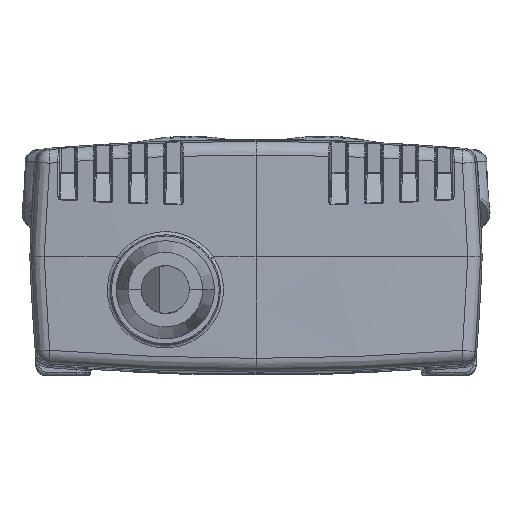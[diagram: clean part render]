
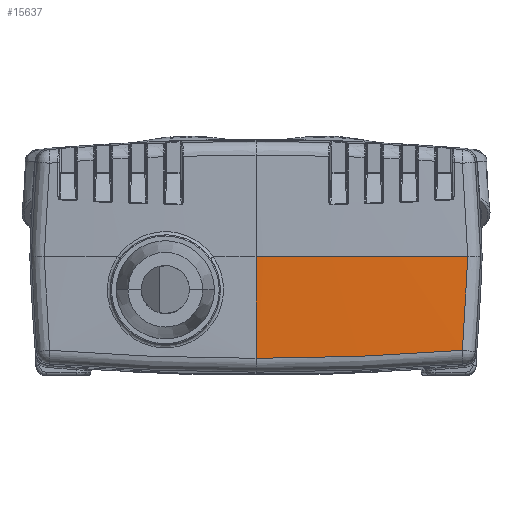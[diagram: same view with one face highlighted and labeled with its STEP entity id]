
A CAD part, top view. The second image highlights one B-rep face of the part: STEP entity #15637.
In plain terms, the highlighted free-form (B-spline) face has degree [3, 3] with [7, 5] control points.
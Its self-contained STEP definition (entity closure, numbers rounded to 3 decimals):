
#19 = CARTESIAN_POINT ( 'NONE',  ( -0.305, 0., 41.85 ) ) ;
#2830 = B_SPLINE_CURVE_WITH_KNOTS ( 'NONE', 3,
 ( #8376, #35740, #30453, #68828 ),
 .UNSPECIFIED., .F., .F.,
 ( 4, 4 ),
 ( 0., 0.009 ),
 .UNSPECIFIED. ) ;
#4364 = CARTESIAN_POINT ( 'NONE',  ( 19.348, -8.774, 41.238 ) ) ;
#5341 = CARTESIAN_POINT ( 'NONE',  ( 7.48, -1.616, 41.85 ) ) ;
#5574 = CARTESIAN_POINT ( 'NONE',  ( -1.812, -8.951, 41.85 ) ) ;
#6047 = CARTESIAN_POINT ( 'NONE',  ( -2.305, 0., 41.85 ) ) ;
#8376 = CARTESIAN_POINT ( 'NONE',  ( 19.856, 0., 41.238 ) ) ;
#8816 = EDGE_CURVE ( 'NONE', #61826, #51085, #31398, .T. ) ;
#10594 = CARTESIAN_POINT ( 'NONE',  ( 20.97, -5.286, 41.149 ) ) ;
#10830 = CARTESIAN_POINT ( 'NONE',  ( 0., -11., 41.85 ) ) ;
#11062 = CARTESIAN_POINT ( 'NONE',  ( -1.361, -1.616, 41.85 ) ) ;
#11852 =( BOUNDED_SURFACE ( )  B_SPLINE_SURFACE ( 3, 3, ( 
 ( #21371, #43524, #10594, #49071, #16117 ),
 ( #54560, #21612, #60085, #27108, #65613 ),
 ( #32711, #71073, #38216, #5341, #43760 ),
 ( #10830, #49313, #16346, #54785, #21842 ),
 ( #60326, #27333, #65843, #32942, #19 ),
 ( #38438, #5574, #43994, #11062, #49539 ),
 ( #16593, #55020, #22065, #60561, #27583 ) ),
 .UNSPECIFIED., .F., .F., .F. ) 
 B_SPLINE_SURFACE_WITH_KNOTS ( ( 4, 3, 4 ),
 ( 4, 1, 4 ),
 ( 0., 0.43, 0.493 ),
 ( 0., 0.56, 1. ),
 .UNSPECIFIED. ) 
 GEOMETRIC_REPRESENTATION_ITEM ( )  RATIONAL_B_SPLINE_SURFACE ( (
 ( 1., 1., 1., 1., 1.),
 ( 1., 1., 1., 1., 1.),
 ( 1., 1., 1., 1., 1.),
 ( 1., 1., 1., 1., 1.),
 ( 1., 1., 1., 1., 1.),
 ( 1., 1., 1., 1., 1.),
 ( 1., 1., 1., 1., 1.) ) ) 
 REPRESENTATION_ITEM ( '' )  SURFACE ( )  );
#11947 = CARTESIAN_POINT ( 'NONE',  ( 0., -1.838, 41.85 ) ) ;
#15637 = ADVANCED_FACE ( 'NONE', ( #65109 ), #11852, .F. ) ;
#16117 = CARTESIAN_POINT ( 'NONE',  ( 21.2, 0., 41.149 ) ) ;
#16346 = CARTESIAN_POINT ( 'NONE',  ( 0.465, -5.286, 41.85 ) ) ;
#16593 = CARTESIAN_POINT ( 'NONE',  ( -3., -11., 41.85 ) ) ;
#16831 = DIRECTION ( 'NONE',  ( -1., 0., 0. ) ) ;
#17680 = CARTESIAN_POINT ( 'NONE',  ( 0., -3.675, 41.85 ) ) ;
#17993 = CARTESIAN_POINT ( 'NONE',  ( 16.134, -9.023, 41.442 ) ) ;
#19102 = EDGE_CURVE ( 'NONE', #51559, #51918, #29126, .T. ) ;
#20988 = ORIENTED_EDGE ( 'NONE', *, *, #19102, .T. ) ;
#21371 = CARTESIAN_POINT ( 'NONE',  ( 20.505, -11., 41.149 ) ) ;
#21612 = CARTESIAN_POINT ( 'NONE',  ( 13.867, -8.951, 41.616 ) ) ;
#21842 = CARTESIAN_POINT ( 'NONE',  ( 0.695, 0., 41.85 ) ) ;
#22065 = CARTESIAN_POINT ( 'NONE',  ( -2.535, -5.286, 41.85 ) ) ;
#23162 = CARTESIAN_POINT ( 'NONE',  ( 0., -5.513, 41.85 ) ) ;
#23473 = CARTESIAN_POINT ( 'NONE',  ( 6.46, -9.459, 41.801 ) ) ;
#24555 = DIRECTION ( 'NONE',  ( 0., -1., 0. ) ) ;
#26442 = CARTESIAN_POINT ( 'NONE',  ( 0.695, 0., 41.85 ) ) ;
#27108 = CARTESIAN_POINT ( 'NONE',  ( 14.318, -1.616, 41.616 ) ) ;
#27333 = CARTESIAN_POINT ( 'NONE',  ( -0.812, -8.951, 41.85 ) ) ;
#27583 = CARTESIAN_POINT ( 'NONE',  ( -2.305, 0., 41.85 ) ) ;
#27595 = VECTOR ( 'NONE', #16831, 1000. ) ;
#28715 = CARTESIAN_POINT ( 'NONE',  ( 0., -8.184, 41.85 ) ) ;
#29045 = CARTESIAN_POINT ( 'NONE',  ( 0., -9.52, 41.85 ) ) ;
#29126 = CIRCLE ( 'NONE', #62420, 300. ) ;
#30105 = EDGE_CURVE ( 'NONE', #51559, #51083, #2830, .T. ) ;
#30453 = CARTESIAN_POINT ( 'NONE',  ( 19.583, -5.853, 41.238 ) ) ;
#30889 = ORIENTED_EDGE ( 'NONE', *, *, #30105, .F. ) ;
#31398 = B_SPLINE_CURVE_WITH_KNOTS ( 'NONE', 3,
 ( #45127, #44887, #11947, #50660, #17680, #56146, #23162, #61670, #28715, #67165 ),
 .UNSPECIFIED., .F., .F.,
 ( 4, 3, 3, 4 ),
 ( 0., 0.003, 0.006, 0.01 ),
 .UNSPECIFIED. ) ;
#31492 = CARTESIAN_POINT ( 'NONE',  ( 0., 0., 41.85 ) ) ;
#32711 = CARTESIAN_POINT ( 'NONE',  ( 6.842, -11., 41.85 ) ) ;
#32942 = CARTESIAN_POINT ( 'NONE',  ( -0.361, -1.616, 41.85 ) ) ;
#35740 = CARTESIAN_POINT ( 'NONE',  ( 19.753, -2.928, 41.238 ) ) ;
#37437 = ORIENTED_EDGE ( 'NONE', *, *, #8816, .T. ) ;
#38216 = CARTESIAN_POINT ( 'NONE',  ( 7.306, -5.286, 41.85 ) ) ;
#38438 = CARTESIAN_POINT ( 'NONE',  ( -2., -11., 41.85 ) ) ;
#39869 = CARTESIAN_POINT ( 'NONE',  ( 19.348, -8.774, 41.238 ) ) ;
#39968 = EDGE_LOOP ( 'NONE', ( #37437, #50191, #30889, #20988, #46140 ) ) ;
#43524 = CARTESIAN_POINT ( 'NONE',  ( 20.693, -8.951, 41.149 ) ) ;
#43760 = CARTESIAN_POINT ( 'NONE',  ( 7.537, 0., 41.85 ) ) ;
#43886 = B_SPLINE_CURVE_WITH_KNOTS ( 'NONE', 3,
 ( #39869, #17993, #56476, #23473, #61990, #29045 ),
 .UNSPECIFIED., .F., .F.,
 ( 4, 2, 4 ),
 ( 0., 0.01, 0.019 ),
 .UNSPECIFIED. ) ;
#43994 = CARTESIAN_POINT ( 'NONE',  ( -1.535, -5.286, 41.85 ) ) ;
#44887 = CARTESIAN_POINT ( 'NONE',  ( 0., -0.919, 41.85 ) ) ;
#45127 = CARTESIAN_POINT ( 'NONE',  ( 0., 0., 41.85 ) ) ;
#45388 = EDGE_CURVE ( 'NONE', #51083, #51085, #43886, .T. ) ;
#46140 = ORIENTED_EDGE ( 'NONE', *, *, #65966, .T. ) ;
#49071 = CARTESIAN_POINT ( 'NONE',  ( 21.144, -1.616, 41.149 ) ) ;
#49313 = CARTESIAN_POINT ( 'NONE',  ( 0.188, -8.951, 41.85 ) ) ;
#49539 = CARTESIAN_POINT ( 'NONE',  ( -1.305, 0., 41.85 ) ) ;
#49662 = CARTESIAN_POINT ( 'NONE',  ( 19.856, 0., 41.238 ) ) ;
#50191 = ORIENTED_EDGE ( 'NONE', *, *, #45388, .F. ) ;
#50660 = CARTESIAN_POINT ( 'NONE',  ( 0., -2.756, 41.85 ) ) ;
#51083 = VERTEX_POINT ( 'NONE', #4364 ) ;
#51085 = VERTEX_POINT ( 'NONE', #70334 ) ;
#51559 = VERTEX_POINT ( 'NONE', #49662 ) ;
#51918 = VERTEX_POINT ( 'NONE', #26442 ) ;
#54560 = CARTESIAN_POINT ( 'NONE',  ( 13.679, -11., 41.616 ) ) ;
#54785 = CARTESIAN_POINT ( 'NONE',  ( 0.639, -1.616, 41.85 ) ) ;
#55020 = CARTESIAN_POINT ( 'NONE',  ( -2.812, -8.951, 41.85 ) ) ;
#56146 = CARTESIAN_POINT ( 'NONE',  ( 0., -4.594, 41.85 ) ) ;
#56476 = CARTESIAN_POINT ( 'NONE',  ( 12.913, -9.21, 41.596 ) ) ;
#57584 = CARTESIAN_POINT ( 'NONE',  ( 0.695, 0., -258.15 ) ) ;
#60085 = CARTESIAN_POINT ( 'NONE',  ( 14.144, -5.286, 41.616 ) ) ;
#60326 = CARTESIAN_POINT ( 'NONE',  ( -1., -11., 41.85 ) ) ;
#60561 = CARTESIAN_POINT ( 'NONE',  ( -2.361, -1.616, 41.85 ) ) ;
#61670 = CARTESIAN_POINT ( 'NONE',  ( 0., -6.849, 41.85 ) ) ;
#61826 = VERTEX_POINT ( 'NONE', #31492 ) ;
#61990 = CARTESIAN_POINT ( 'NONE',  ( 3.231, -9.52, 41.85 ) ) ;
#62420 = AXIS2_PLACEMENT_3D ( 'NONE', #57584, #24555, #63069 ) ;
#63069 = DIRECTION ( 'NONE',  ( 0., 0., 1. ) ) ;
#65109 = FACE_OUTER_BOUND ( 'NONE', #39968, .T. ) ;
#65613 = CARTESIAN_POINT ( 'NONE',  ( 14.374, 0., 41.616 ) ) ;
#65843 = CARTESIAN_POINT ( 'NONE',  ( -0.535, -5.286, 41.85 ) ) ;
#65966 = EDGE_CURVE ( 'NONE', #51918, #61826, #69707, .T. ) ;
#67165 = CARTESIAN_POINT ( 'NONE',  ( 0., -9.52, 41.85 ) ) ;
#68828 = CARTESIAN_POINT ( 'NONE',  ( 19.348, -8.774, 41.238 ) ) ;
#69707 = LINE ( 'NONE', #6047, #27595 ) ;
#70334 = CARTESIAN_POINT ( 'NONE',  ( 0., -9.52, 41.85 ) ) ;
#71073 = CARTESIAN_POINT ( 'NONE',  ( 7.029, -8.951, 41.85 ) ) ;
